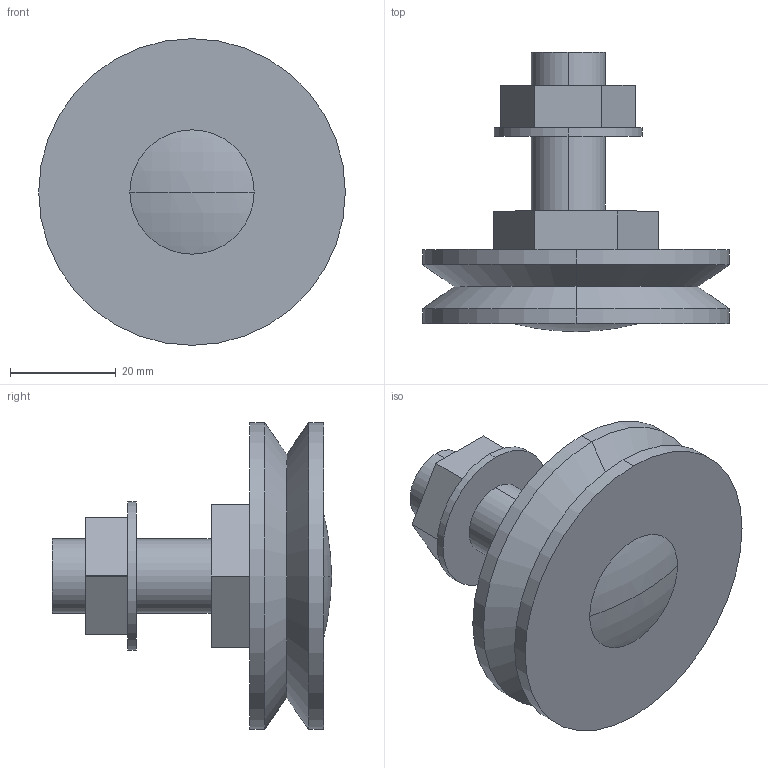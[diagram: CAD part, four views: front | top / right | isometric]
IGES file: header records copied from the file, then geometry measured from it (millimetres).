
Start section: 3D InterOp IGES (v. 2019 1.0.2), Spatial Corp. Copyright (c) 1999-2017.
Global section: file name: GLJ 580E.igs; native system: Spatial Corp.; preprocessor: 3D InterOp GENERIC/IGES 3.0; author: Noname; organization: Noname; date: 20220628.170611; units: millimetre
Bounding box: 58 x 52.8 x 58 mm (x, y, z)
Surface area: 12016.8 mm2 (no closed solid volume)
Topology: 0 solids, 0 shells, 42 faces, 188 edges, 188 vertices
Faces by surface type: extrusion 26, revolution 16
